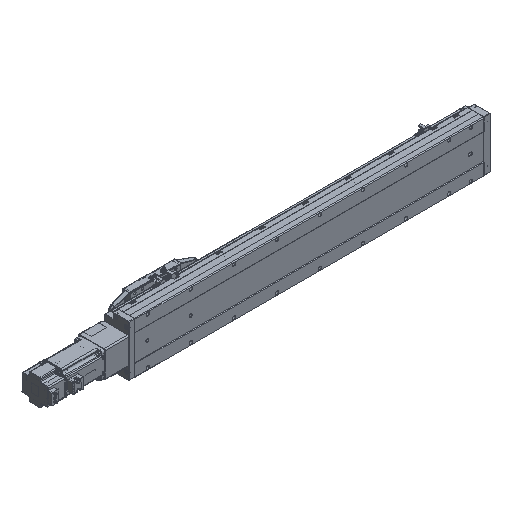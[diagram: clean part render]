
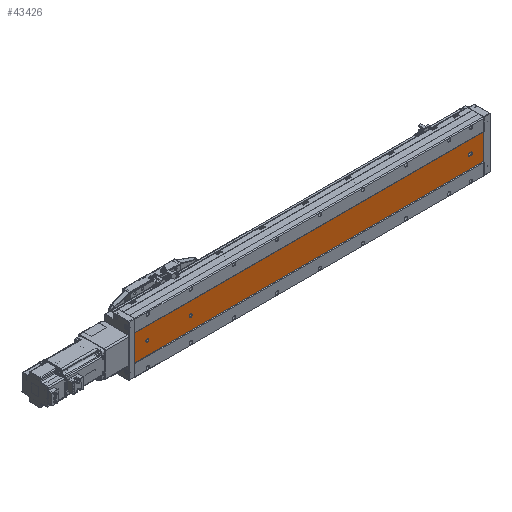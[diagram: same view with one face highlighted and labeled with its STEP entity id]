
A CAD part, isometric view. The second image highlights one B-rep face of the part: STEP entity #43426.
In plain terms, the highlighted planar face has unit normal (0, -1, 0).
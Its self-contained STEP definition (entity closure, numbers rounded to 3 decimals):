
#221 = EDGE_LOOP ( 'NONE', ( #52229, #48254, #5830, #68622, #4779 ) ) ;
#991 = LINE ( 'NONE', #64280, #69788 ) ;
#1787 = CARTESIAN_POINT ( 'NONE',  ( -36.392, -52.848, 32. ) ) ;
#1984 = DIRECTION ( 'NONE',  ( 0., 1., 0. ) ) ;
#2235 = CARTESIAN_POINT ( 'NONE',  ( -43.392, -52.848, 30. ) ) ;
#2269 = EDGE_LOOP ( 'NONE', ( #61681, #51611 ) ) ;
#2965 = CARTESIAN_POINT ( 'NONE',  ( -9.892, -52.848, 811. ) ) ;
#3219 = EDGE_LOOP ( 'NONE', ( #82223, #71208, #84381, #49362 ) ) ;
#3371 = CARTESIAN_POINT ( 'NONE',  ( -39.892, -52.848, 677.5 ) ) ;
#4021 = CARTESIAN_POINT ( 'NONE',  ( -9.892, -52.848, 811. ) ) ;
#4308 = DIRECTION ( 'NONE',  ( 0., 1., 0. ) ) ;
#4779 = ORIENTED_EDGE ( 'NONE', *, *, #58546, .T. ) ;
#5830 = ORIENTED_EDGE ( 'NONE', *, *, #17194, .T. ) ;
#9479 = DIRECTION ( 'NONE',  ( 0., 0., -1. ) ) ;
#9571 = CARTESIAN_POINT ( 'NONE',  ( -69.892, -52.848, 0. ) ) ;
#10324 = CARTESIAN_POINT ( 'NONE',  ( -43.392, -52.848, 811. ) ) ;
#11120 = VERTEX_POINT ( 'NONE', #30620 ) ;
#11580 = DIRECTION ( 'NONE',  ( 0., 0., 1. ) ) ;
#13147 = LINE ( 'NONE', #41562, #65330 ) ;
#14228 = VERTEX_POINT ( 'NONE', #14821 ) ;
#14251 = AXIS2_PLACEMENT_3D ( 'NONE', #40144, #47657, #61572 ) ;
#14821 = CARTESIAN_POINT ( 'NONE',  ( -69.892, -52.848, 811. ) ) ;
#15643 = AXIS2_PLACEMENT_3D ( 'NONE', #35038, #42534, #55881 ) ;
#16636 = DIRECTION ( 'NONE',  ( 0., 0., 1. ) ) ;
#17194 = EDGE_CURVE ( 'NONE', #21918, #83013, #18904, .T. ) ;
#17237 = DIRECTION ( 'NONE',  ( 0., 1., 0. ) ) ;
#17387 = CARTESIAN_POINT ( 'NONE',  ( -39.892, -52.848, 684.5 ) ) ;
#17391 = CIRCLE ( 'NONE', #51914, 3.5 ) ;
#18138 = DIRECTION ( 'NONE',  ( 1., 0., 0. ) ) ;
#18904 = LINE ( 'NONE', #47036, #40002 ) ;
#19500 = EDGE_CURVE ( 'NONE', #83013, #86544, #17391, .T. ) ;
#20384 = DIRECTION ( 'NONE',  ( 0., 0., 1. ) ) ;
#20877 = CARTESIAN_POINT ( 'NONE',  ( -39.892, -52.848, 781. ) ) ;
#21918 = VERTEX_POINT ( 'NONE', #1787 ) ;
#22235 = CARTESIAN_POINT ( 'NONE',  ( -9.892, -52.848, 0. ) ) ;
#22244 = LINE ( 'NONE', #2965, #69957 ) ;
#23832 = CARTESIAN_POINT ( 'NONE',  ( -39.892, -52.848, 26.5 ) ) ;
#24488 = AXIS2_PLACEMENT_3D ( 'NONE', #53297, #4308, #45896 ) ;
#24719 = FACE_OUTER_BOUND ( 'NONE', #3219, .T. ) ;
#25440 = VECTOR ( 'NONE', #18138, 1000. ) ;
#25865 = DIRECTION ( 'NONE',  ( 0., 0., -1. ) ) ;
#29809 = CIRCLE ( 'NONE', #15643, 3.5 ) ;
#29823 = CARTESIAN_POINT ( 'NONE',  ( -39.892, -52.848, 777.5 ) ) ;
#30495 = EDGE_CURVE ( 'NONE', #86586, #42119, #13147, .T. ) ;
#30620 = CARTESIAN_POINT ( 'NONE',  ( -39.892, -52.848, 784.5 ) ) ;
#32992 = EDGE_CURVE ( 'NONE', #11120, #60480, #42571, .T. ) ;
#34319 = DIRECTION ( 'NONE',  ( 0., 1., 0. ) ) ;
#34677 = VECTOR ( 'NONE', #66194, 1000. ) ;
#35038 = CARTESIAN_POINT ( 'NONE',  ( -39.892, -52.848, 30. ) ) ;
#37473 = EDGE_CURVE ( 'NONE', #14228, #86586, #991, .T. ) ;
#37687 = CARTESIAN_POINT ( 'NONE',  ( -39.892, -52.848, 30. ) ) ;
#40002 = VECTOR ( 'NONE', #25865, 1000. ) ;
#40144 = CARTESIAN_POINT ( 'NONE',  ( -69.892, -52.848, 811. ) ) ;
#40557 = CIRCLE ( 'NONE', #89795, 3.5 ) ;
#41368 = FACE_BOUND ( 'NONE', #221, .T. ) ;
#41562 = CARTESIAN_POINT ( 'NONE',  ( -69.892, -52.848, 0. ) ) ;
#42119 = VERTEX_POINT ( 'NONE', #22235 ) ;
#42534 = DIRECTION ( 'NONE',  ( 0., 1., 0. ) ) ;
#42571 = CIRCLE ( 'NONE', #62884, 3.5 ) ;
#42957 = VERTEX_POINT ( 'NONE', #3371 ) ;
#43426 = ADVANCED_FACE ( 'NONE', ( #41368, #81358, #82439, #24719 ), #54129, .F. ) ;
#43955 = AXIS2_PLACEMENT_3D ( 'NONE', #91744, #34319, #20384 ) ;
#45109 = EDGE_CURVE ( 'NONE', #65301, #42119, #22244, .T. ) ;
#45143 = VERTEX_POINT ( 'NONE', #71539 ) ;
#45896 = DIRECTION ( 'NONE',  ( 0., 0., 1. ) ) ;
#47036 = CARTESIAN_POINT ( 'NONE',  ( -36.392, -52.848, 811. ) ) ;
#47321 = CARTESIAN_POINT ( 'NONE',  ( -39.892, -52.848, 681. ) ) ;
#47657 = DIRECTION ( 'NONE',  ( 0., 1., 0. ) ) ;
#48254 = ORIENTED_EDGE ( 'NONE', *, *, #73014, .T. ) ;
#49178 = LINE ( 'NONE', #10324, #34677 ) ;
#49362 = ORIENTED_EDGE ( 'NONE', *, *, #37473, .T. ) ;
#51611 = ORIENTED_EDGE ( 'NONE', *, *, #63059, .T. ) ;
#51914 = AXIS2_PLACEMENT_3D ( 'NONE', #37687, #17237, #16636 ) ;
#52229 = ORIENTED_EDGE ( 'NONE', *, *, #67161, .T. ) ;
#53297 = CARTESIAN_POINT ( 'NONE',  ( -39.892, -52.848, 781. ) ) ;
#54129 = PLANE ( 'NONE',  #14251 ) ;
#55881 = DIRECTION ( 'NONE',  ( 0., 0., 1. ) ) ;
#56099 = DIRECTION ( 'NONE',  ( 0., 0., 1. ) ) ;
#56520 = EDGE_CURVE ( 'NONE', #60480, #11120, #77998, .T. ) ;
#56897 = EDGE_CURVE ( 'NONE', #42957, #69414, #74589, .T. ) ;
#58546 = EDGE_CURVE ( 'NONE', #86544, #76116, #29809, .T. ) ;
#58570 = CARTESIAN_POINT ( 'NONE',  ( -36.392, -52.848, 30. ) ) ;
#58749 = LINE ( 'NONE', #60662, #25440 ) ;
#60480 = VERTEX_POINT ( 'NONE', #29823 ) ;
#60662 = CARTESIAN_POINT ( 'NONE',  ( -69.892, -52.848, 811. ) ) ;
#60938 = DIRECTION ( 'NONE',  ( 0., 1., 0. ) ) ;
#61572 = DIRECTION ( 'NONE',  ( 0., 0., 1. ) ) ;
#61681 = ORIENTED_EDGE ( 'NONE', *, *, #56897, .T. ) ;
#62884 = AXIS2_PLACEMENT_3D ( 'NONE', #20877, #1984, #65571 ) ;
#63059 = EDGE_CURVE ( 'NONE', #69414, #42957, #40557, .T. ) ;
#64280 = CARTESIAN_POINT ( 'NONE',  ( -69.892, -52.848, 811. ) ) ;
#64582 = DIRECTION ( 'NONE',  ( 0., 0., -1. ) ) ;
#64749 = CIRCLE ( 'NONE', #43955, 3.5 ) ;
#65301 = VERTEX_POINT ( 'NONE', #4021 ) ;
#65330 = VECTOR ( 'NONE', #91208, 1000. ) ;
#65571 = DIRECTION ( 'NONE',  ( 0., 0., 1. ) ) ;
#66194 = DIRECTION ( 'NONE',  ( 0., 0., 1. ) ) ;
#67161 = EDGE_CURVE ( 'NONE', #76116, #45143, #49178, .T. ) ;
#68217 = EDGE_LOOP ( 'NONE', ( #75974, #89405 ) ) ;
#68622 = ORIENTED_EDGE ( 'NONE', *, *, #19500, .T. ) ;
#69414 = VERTEX_POINT ( 'NONE', #17387 ) ;
#69788 = VECTOR ( 'NONE', #64582, 1000. ) ;
#69957 = VECTOR ( 'NONE', #9479, 1000. ) ;
#71208 = ORIENTED_EDGE ( 'NONE', *, *, #45109, .F. ) ;
#71539 = CARTESIAN_POINT ( 'NONE',  ( -43.392, -52.848, 32. ) ) ;
#73014 = EDGE_CURVE ( 'NONE', #45143, #21918, #64749, .T. ) ;
#74589 = CIRCLE ( 'NONE', #80358, 3.5 ) ;
#75974 = ORIENTED_EDGE ( 'NONE', *, *, #56520, .T. ) ;
#76116 = VERTEX_POINT ( 'NONE', #2235 ) ;
#77819 = DIRECTION ( 'NONE',  ( 0., 1., 0. ) ) ;
#77998 = CIRCLE ( 'NONE', #24488, 3.5 ) ;
#80358 = AXIS2_PLACEMENT_3D ( 'NONE', #47321, #60938, #11580 ) ;
#81358 = FACE_BOUND ( 'NONE', #2269, .T. ) ;
#82223 = ORIENTED_EDGE ( 'NONE', *, *, #30495, .T. ) ;
#82439 = FACE_BOUND ( 'NONE', #68217, .T. ) ;
#83013 = VERTEX_POINT ( 'NONE', #58570 ) ;
#84381 = ORIENTED_EDGE ( 'NONE', *, *, #85232, .F. ) ;
#85232 = EDGE_CURVE ( 'NONE', #14228, #65301, #58749, .T. ) ;
#86544 = VERTEX_POINT ( 'NONE', #23832 ) ;
#86586 = VERTEX_POINT ( 'NONE', #9571 ) ;
#89405 = ORIENTED_EDGE ( 'NONE', *, *, #32992, .T. ) ;
#89795 = AXIS2_PLACEMENT_3D ( 'NONE', #91169, #77819, #56099 ) ;
#91169 = CARTESIAN_POINT ( 'NONE',  ( -39.892, -52.848, 681. ) ) ;
#91208 = DIRECTION ( 'NONE',  ( 1., 0., 0. ) ) ;
#91744 = CARTESIAN_POINT ( 'NONE',  ( -39.892, -52.848, 32. ) ) ;
